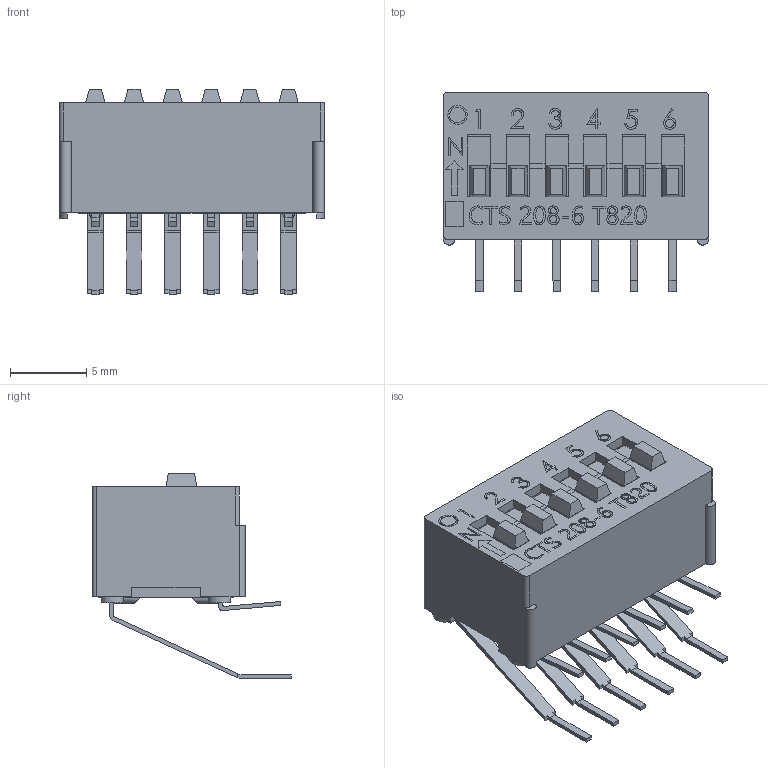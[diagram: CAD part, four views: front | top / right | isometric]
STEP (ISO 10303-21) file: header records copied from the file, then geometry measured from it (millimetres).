
FILE_DESCRIPTION (( 'STEP AP214' ), '1' );
FILE_NAME ('208-6RA.STEP', '2019-05-28T02:48:31', ( '' ), ( '' ), 'SwSTEP 2.0', 'SolidWorks 2019', '' );
FILE_SCHEMA (( 'AUTOMOTIVE_DESIGN' ));
Length unit declared in the file: millimetre
Products named in the file (4): 206006RAS- Base assly; 208-6RA; 208-6RA cover; 206-56-014-35-01
Assembly tree (8 placements, depth 2):
  208-6RA
    208-6RA cover
    206-56-014-35-01  x6
    206006RAS- Base assly
Bounding box: 17.42 x 13.08 x 13.5 mm (x, y, z)
Volume: 770.8 mm3; surface area: 2470.2 mm2
Topology: 8 solids, 8 shells, 749 faces, 2023 edges, 1336 vertices
Faces by surface type: plane 520, bspline 141, cylinder 88
Entity records: 26232 total; most frequent: CARTESIAN_POINT 12287, ORIENTED_EDGE 3036, DIRECTION 2192, EDGE_CURVE 1518, VECTOR 1130, LINE 1130, VERTEX_POINT 1006, EDGE_LOOP 614
